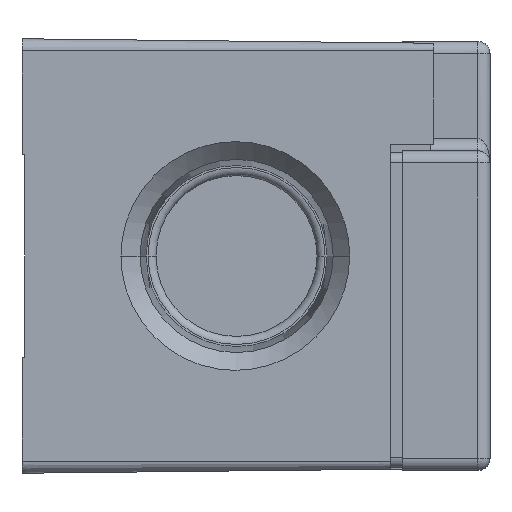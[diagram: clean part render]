
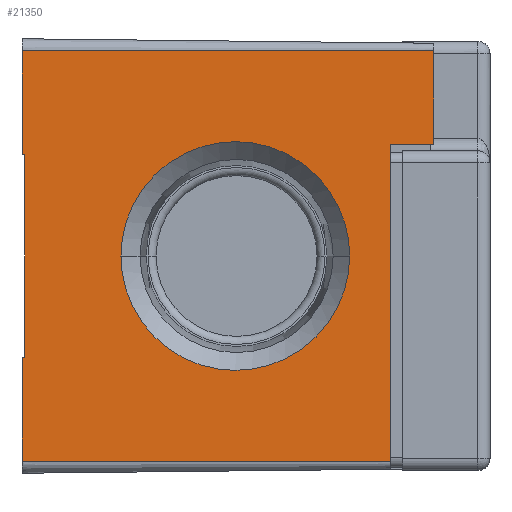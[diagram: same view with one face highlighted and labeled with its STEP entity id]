
A CAD part, front view. The second image highlights one B-rep face of the part: STEP entity #21350.
In plain terms, the highlighted planar face has unit normal (0.011, -1, 0).
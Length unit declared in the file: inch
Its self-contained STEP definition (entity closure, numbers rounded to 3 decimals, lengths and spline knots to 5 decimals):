
#16321=DIRECTION('',(0.,0.,1.));
#16322=VECTOR('',#16321,1.182);
#16323=CARTESIAN_POINT('',(0.53,-3.18912,-0.765));
#16324=LINE('',#16323,#16322);
#16721=DIRECTION('',(0.,0.,1.));
#16722=VECTOR('',#16721,0.756);
#16723=CARTESIAN_POINT('',(-0.835,-3.20389,-0.378));
#16724=LINE('',#16723,#16722);
#16725=DIRECTION('',(1.,0.011,0.));
#16726=VECTOR('',#16725,0.01);
#16727=CARTESIAN_POINT('',(-0.845,-3.204,0.378));
#16728=LINE('',#16727,#16726);
#16729=DIRECTION('',(0.,0.,1.));
#16730=VECTOR('',#16729,0.387);
#16731=CARTESIAN_POINT('',(-0.845,-3.204,0.378));
#16732=LINE('',#16731,#16730);
#16733=DIRECTION('',(0.,0.,1.));
#16734=VECTOR('',#16733,0.348);
#16735=CARTESIAN_POINT('',(0.69,-3.18739,0.417));
#16736=LINE('',#16735,#16734);
#16737=DIRECTION('',(-1.,-0.011,0.));
#16738=VECTOR('',#16737,0.16001);
#16739=CARTESIAN_POINT('',(0.69,-3.18739,0.417));
#16740=LINE('',#16739,#16738);
#16741=DIRECTION('',(0.,0.,1.));
#16742=VECTOR('',#16741,0.387);
#16743=CARTESIAN_POINT('',(-0.845,-3.204,-0.765));
#16744=LINE('',#16743,#16742);
#16745=DIRECTION('',(1.,0.011,0.));
#16746=VECTOR('',#16745,0.01);
#16747=CARTESIAN_POINT('',(-0.845,-3.204,-0.378));
#16748=LINE('',#16747,#16746);
#16749=CARTESIAN_POINT('',(0.37678,-3.19078,0.));
#16750=CARTESIAN_POINT('',(0.37678,-3.19078,
-0.02512));
#16751=CARTESIAN_POINT('',(0.37232,-3.19083,
-0.07725));
#16752=CARTESIAN_POINT('',(0.34969,-3.19107,
-0.15743));
#16753=CARTESIAN_POINT('',(0.30997,-3.1915,
-0.23469));
#16754=CARTESIAN_POINT('',(0.25407,-3.19211,
-0.30367));
#16755=CARTESIAN_POINT('',(0.19659,-3.19273,
-0.35024));
#16756=CARTESIAN_POINT('',(0.14646,-3.19327,
-0.37943));
#16757=CARTESIAN_POINT('',(0.10746,-3.19369,
-0.39714));
#16758=CARTESIAN_POINT('',(0.06773,-3.19412,
-0.4106));
#16759=CARTESIAN_POINT('',(0.03453,-3.19448,
-0.41836));
#16760=CARTESIAN_POINT('',(0.00822,-3.19477,
-0.42258));
#16761=CARTESIAN_POINT('',(-0.01134,-3.19498,
-0.4248));
#16762=CARTESIAN_POINT('',(-0.02743,-3.19515,
-0.42587));
#16763=CARTESIAN_POINT('',(-0.04017,-3.19529,
-0.4263));
#16764=CARTESIAN_POINT('',(-0.04961,-3.19539,
-0.4264));
#16765=CARTESIAN_POINT('',(-0.05906,-3.19549,
-0.4263));
#16766=CARTESIAN_POINT('',(-0.07179,-3.19563,
-0.42587));
#16767=CARTESIAN_POINT('',(-0.08789,-3.19581,
-0.4248));
#16768=CARTESIAN_POINT('',(-0.10744,-3.19602,
-0.42258));
#16769=CARTESIAN_POINT('',(-0.13376,-3.1963,
-0.41836));
#16770=CARTESIAN_POINT('',(-0.16696,-3.19666,
-0.4106));
#16771=CARTESIAN_POINT('',(-0.20669,-3.19709,
-0.39714));
#16772=CARTESIAN_POINT('',(-0.24569,-3.19751,
-0.37943));
#16773=CARTESIAN_POINT('',(-0.29582,-3.19806,
-0.35024));
#16774=CARTESIAN_POINT('',(-0.3533,-3.19868,
-0.30367));
#16775=CARTESIAN_POINT('',(-0.4092,-3.19928,
-0.23469));
#16776=CARTESIAN_POINT('',(-0.44892,-3.19971,
-0.15743));
#16777=CARTESIAN_POINT('',(-0.47154,-3.19996,
-0.07725));
#16778=CARTESIAN_POINT('',(-0.47601,-3.20001,
-0.02512));
#16779=CARTESIAN_POINT('',(-0.47601,-3.20001,0.));
#16781=CARTESIAN_POINT('',(-0.47601,-3.20001,0.));
#16782=CARTESIAN_POINT('',(-0.47601,-3.20001,
0.02512));
#16783=CARTESIAN_POINT('',(-0.47154,-3.19996,
0.07725));
#16784=CARTESIAN_POINT('',(-0.44892,-3.19971,
0.15743));
#16785=CARTESIAN_POINT('',(-0.4092,-3.19928,
0.23469));
#16786=CARTESIAN_POINT('',(-0.3533,-3.19868,
0.30367));
#16787=CARTESIAN_POINT('',(-0.29582,-3.19806,
0.35024));
#16788=CARTESIAN_POINT('',(-0.24569,-3.19751,
0.37943));
#16789=CARTESIAN_POINT('',(-0.20669,-3.19709,
0.39714));
#16790=CARTESIAN_POINT('',(-0.16696,-3.19666,
0.4106));
#16791=CARTESIAN_POINT('',(-0.13376,-3.1963,
0.41836));
#16792=CARTESIAN_POINT('',(-0.10744,-3.19602,
0.42258));
#16793=CARTESIAN_POINT('',(-0.08789,-3.19581,
0.4248));
#16794=CARTESIAN_POINT('',(-0.07179,-3.19563,
0.42587));
#16795=CARTESIAN_POINT('',(-0.05906,-3.19549,
0.4263));
#16796=CARTESIAN_POINT('',(-0.04961,-3.19539,
0.4264));
#16797=CARTESIAN_POINT('',(-0.04017,-3.19529,
0.4263));
#16798=CARTESIAN_POINT('',(-0.02743,-3.19515,
0.42587));
#16799=CARTESIAN_POINT('',(-0.01134,-3.19498,
0.4248));
#16800=CARTESIAN_POINT('',(0.00822,-3.19477,
0.42258));
#16801=CARTESIAN_POINT('',(0.03453,-3.19448,
0.41836));
#16802=CARTESIAN_POINT('',(0.06773,-3.19412,
0.4106));
#16803=CARTESIAN_POINT('',(0.10746,-3.19369,
0.39714));
#16804=CARTESIAN_POINT('',(0.14646,-3.19327,
0.37943));
#16805=CARTESIAN_POINT('',(0.19659,-3.19273,
0.35024));
#16806=CARTESIAN_POINT('',(0.25407,-3.19211,
0.30367));
#16807=CARTESIAN_POINT('',(0.30997,-3.1915,
0.23469));
#16808=CARTESIAN_POINT('',(0.34969,-3.19107,
0.15743));
#16809=CARTESIAN_POINT('',(0.37232,-3.19083,
0.07725));
#16810=CARTESIAN_POINT('',(0.37678,-3.19078,
0.02512));
#16811=CARTESIAN_POINT('',(0.37678,-3.19078,0.));
#17032=DIRECTION('',(1.,0.011,0.));
#17033=VECTOR('',#17032,1.53509);
#17034=CARTESIAN_POINT('',(-0.845,-3.204,0.765));
#17035=LINE('',#17034,#17033);
#17458=DIRECTION('',(1.,0.011,0.));
#17459=VECTOR('',#17458,1.37508);
#17460=CARTESIAN_POINT('',(-0.845,-3.204,-0.765));
#17461=LINE('',#17460,#17459);
#18994=CARTESIAN_POINT('',(0.69,-3.18739,0.417));
#18995=CARTESIAN_POINT('',(0.53,-3.18912,0.417));
#18996=VERTEX_POINT('',#18994);
#18997=VERTEX_POINT('',#18995);
#19002=CARTESIAN_POINT('',(-0.845,-3.204,0.765));
#19003=CARTESIAN_POINT('',(0.69,-3.18739,0.765));
#19004=VERTEX_POINT('',#19002);
#19005=VERTEX_POINT('',#19003);
#19010=CARTESIAN_POINT('',(-0.845,-3.204,-0.765));
#19011=CARTESIAN_POINT('',(0.53,-3.18912,-0.765));
#19012=VERTEX_POINT('',#19010);
#19013=VERTEX_POINT('',#19011);
#19030=CARTESIAN_POINT('',(-0.835,-3.20389,-0.378));
#19031=CARTESIAN_POINT('',(-0.835,-3.20389,0.378));
#19032=VERTEX_POINT('',#19030);
#19033=VERTEX_POINT('',#19031);
#19034=CARTESIAN_POINT('',(-0.845,-3.204,-0.378));
#19035=VERTEX_POINT('',#19034);
#19036=CARTESIAN_POINT('',(-0.845,-3.204,0.378));
#19037=VERTEX_POINT('',#19036);
#19038=VERTEX_POINT('',#16749);
#19039=VERTEX_POINT('',#16779);
#21322=CARTESIAN_POINT('',(-0.845,-3.204,-1.81479));
#21323=DIRECTION('',(0.011,-1.,0.));
#21324=DIRECTION('',(0.,0.,1.));
#21325=AXIS2_PLACEMENT_3D('',#21322,#21323,#21324);
#21326=PLANE('',#21325);
#21327=ORIENTED_EDGE('',*,*,#21224,.T.);
#21329=ORIENTED_EDGE('',*,*,#21328,.F.);
#21331=ORIENTED_EDGE('',*,*,#21330,.T.);
#21333=ORIENTED_EDGE('',*,*,#21332,.T.);
#21335=ORIENTED_EDGE('',*,*,#21334,.F.);
#21336=ORIENTED_EDGE('',*,*,#20748,.T.);
#21337=ORIENTED_EDGE('',*,*,#20802,.F.);
#21339=ORIENTED_EDGE('',*,*,#21338,.F.);
#21340=ORIENTED_EDGE('',*,*,#21295,.T.);
#21341=ORIENTED_EDGE('',*,*,#21317,.T.);
#21342=EDGE_LOOP('',(#21327,#21329,#21331,#21333,#21335,#21336,#21337,#21339,
#21340,#21341));
#21343=FACE_OUTER_BOUND('',#21342,.F.);
#21345=ORIENTED_EDGE('',*,*,#21344,.F.);
#21347=ORIENTED_EDGE('',*,*,#21346,.F.);
#21348=EDGE_LOOP('',(#21345,#21347));
#21349=FACE_BOUND('',#21348,.F.);
#21350=ADVANCED_FACE('',(#21343,#21349),#21326,.T.);
#16780=B_SPLINE_CURVE_WITH_KNOTS('',3,(#16749,#16750,#16751,#16752,#16753,
#16754,#16755,#16756,#16757,#16758,#16759,#16760,#16761,#16762,#16763,#16764,
#16765,#16766,#16767,#16768,#16769,#16770,#16771,#16772,#16773,#16774,#16775,
#16776,#16777,#16778,#16779),.UNSPECIFIED.,.F.,.F.,(4,1,1,1,1,1,1,1,1,1,1,1,1,1,
1,1,1,1,1,1,1,1,1,1,1,1,1,1,4),(0.,0.0625,0.125,0.1875,0.25,0.3125,
0.34375,0.375,0.40625,0.4375,0.45313,0.46875,0.48438,
0.49219,0.5,0.50781,0.51563,0.53125,0.54688,0.5625,
0.59375,0.625,0.65625,0.6875,0.75,0.8125,0.875,0.9375,1.),
.UNSPECIFIED.);
#16812=B_SPLINE_CURVE_WITH_KNOTS('',3,(#16781,#16782,#16783,#16784,#16785,
#16786,#16787,#16788,#16789,#16790,#16791,#16792,#16793,#16794,#16795,#16796,
#16797,#16798,#16799,#16800,#16801,#16802,#16803,#16804,#16805,#16806,#16807,
#16808,#16809,#16810,#16811),.UNSPECIFIED.,.F.,.F.,(4,1,1,1,1,1,1,1,1,1,1,1,1,1,
1,1,1,1,1,1,1,1,1,1,1,1,1,1,4),(0.,0.0625,0.125,0.1875,0.25,0.3125,
0.34375,0.375,0.40625,0.4375,0.45313,0.46875,0.48438,
0.49219,0.5,0.50781,0.51563,0.53125,0.54688,0.5625,
0.59375,0.625,0.65625,0.6875,0.75,0.8125,0.875,0.9375,1.),
.UNSPECIFIED.);
#20748=EDGE_CURVE('',#18996,#18997,#16740,.T.);
#20802=EDGE_CURVE('',#19013,#18997,#16324,.T.);
#21224=EDGE_CURVE('',#19032,#19033,#16724,.T.);
#21295=EDGE_CURVE('',#19012,#19035,#16744,.T.);
#21317=EDGE_CURVE('',#19035,#19032,#16748,.T.);
#21328=EDGE_CURVE('',#19037,#19033,#16728,.T.);
#21330=EDGE_CURVE('',#19037,#19004,#16732,.T.);
#21332=EDGE_CURVE('',#19004,#19005,#17035,.T.);
#21334=EDGE_CURVE('',#18996,#19005,#16736,.T.);
#21338=EDGE_CURVE('',#19012,#19013,#17461,.T.);
#21344=EDGE_CURVE('',#19038,#19039,#16780,.T.);
#21346=EDGE_CURVE('',#19039,#19038,#16812,.T.);
